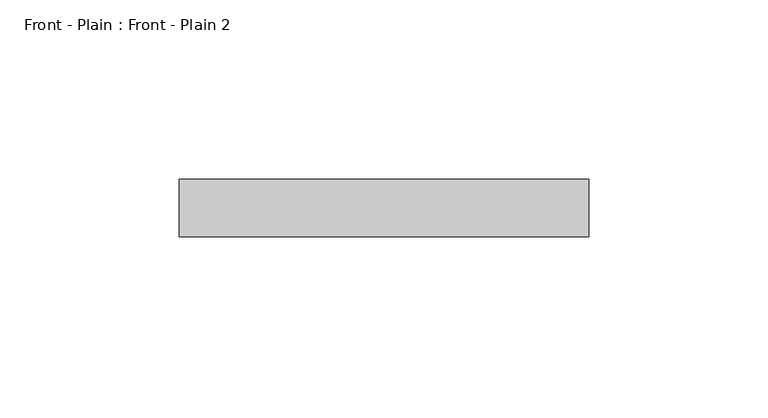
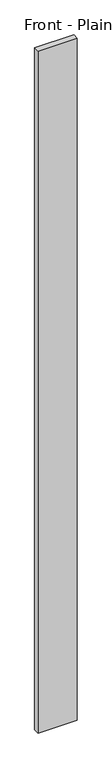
"""IFC4 building model written with IfcOpenShell, lengths in millimetres: furniture geometry, Front - Plain : Front - Plain 2."""

from ifc_helpers import new_model, si_unit, frame, origin, place, context, project, spatial, polyline, outline, extrude, source, transform, mapped, element, save


def front_plain_front_plain_2_fe2e9d0c(model_context):
    return source(origin(), model_context, "Body", "SweptSolid", [
        extrude(outline(polyline([(57.0, 16.0), (57.0, 0.0), (-57.0, 0.0), (-57.0, 16.0), (57.0, 16.0)])), frame((0.0, 0.0, 3.0), z_axis=(0.0, 0.0, 1.0), x_axis=(1.0, 0.0, 0.0)), (0.0, 0.0, 1.0), 2102.0),
    ])


if __name__ == "__main__":
    model = new_model("IFC4")
    model_context = context("Model", 3, world=origin())
    ifc_project = project(units=[si_unit("LENGTHUNIT", "METRE", prefix="MILLI")], contexts=[model_context])
    site = spatial("IfcSite", under=ifc_project)
    building = spatial("IfcBuilding", under=site)
    placement = place(None, origin())
    front_plain_front_plain_2_shape = front_plain_front_plain_2_fe2e9d0c(model_context)
    element("IfcFurniture", 1, ObjectType="Front - Plain : Front - Plain 2", at=placement, inside=building, context=model_context, shape_type="MappedRepresentation", body=[
        mapped(front_plain_front_plain_2_shape, transform((0.0, 0.0, 0.0), x_axis=(1.0, 0.0, 0.0), y_axis=(0.0, 1.0, 0.0), z_axis=(0.0, 0.0, 1.0))),
    ])
    save(model, "model.ifc")
